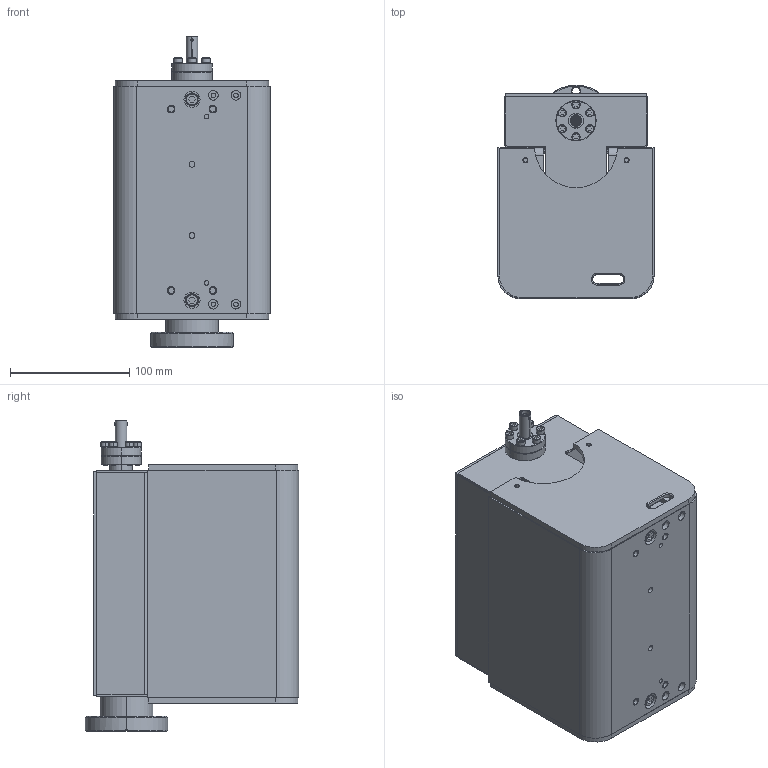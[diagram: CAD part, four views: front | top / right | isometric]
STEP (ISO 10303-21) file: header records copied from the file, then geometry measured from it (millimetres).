
FILE_DESCRIPTION((''),'2;1');
FILE_NAME('45S-XX-2H-XX','2020-12-02T11:19:57',('langebj'),('Gamma Vacuum, LLC'),'CREO PARAMETRIC BY PTC INC, 2020044','CREO PARAMETRIC BY PTC INC, 2020044','');
FILE_SCHEMA(('AUTOMOTIVE_DESIGN { 1 0 10303 214 1 1 1 1 }'));
Products named in the file (1): 45S-XX-2H-XX
Bounding box: 131.2 x 179.37 x 261.23 mm (x, y, z)
Surface area: 517920.3 mm2 (no closed solid volume)
Topology: 0 solids, 0 shells, 949 faces, 4674 edges, 4640 vertices
Faces by surface type: cylinder 382, plane 359, cone 162, torus 44, sphere 2
Entity records: 68697 total; most frequent: CARTESIAN_POINT 16542, DIRECTION 9003, TRIMMED_CURVE 6062, VECTOR 5036, LINE 5036, DEFINITIONAL_REPRESENTATION 4608, PCURVE 4608, COMPOSITE_CURVE_SEGMENT 4608
